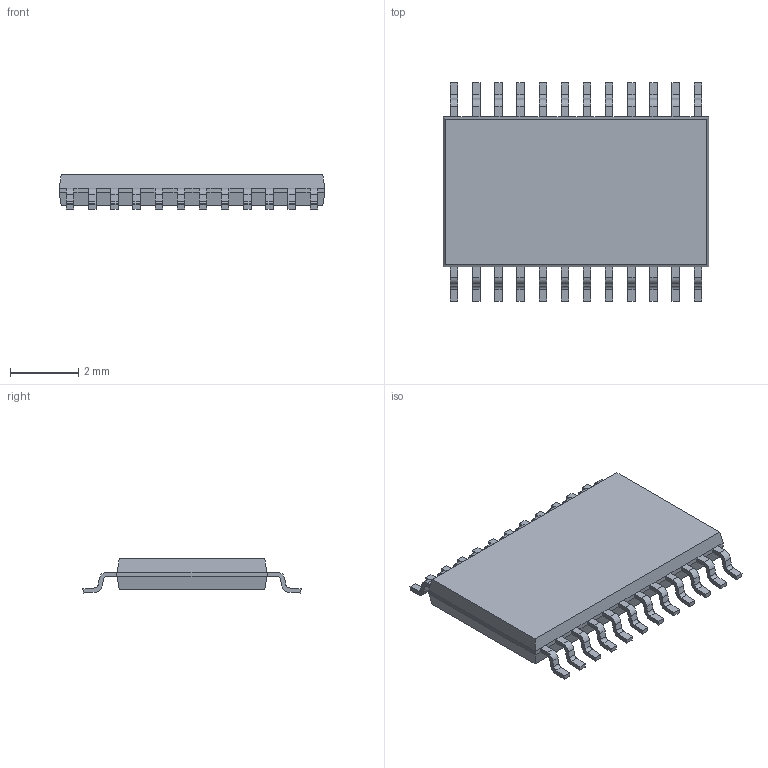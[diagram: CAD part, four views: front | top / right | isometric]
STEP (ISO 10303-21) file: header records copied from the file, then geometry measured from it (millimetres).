
FILE_DESCRIPTION (( 'STEP AP214' ), '1' );
FILE_NAME ('LE-24LD.STEP', '2017-01-25T21:49:27', ( '' ), ( '' ), 'SwSTEP 2.0', 'SolidWorks 2015', '' );
FILE_SCHEMA (( 'AUTOMOTIVE_DESIGN' ));
Length unit declared in the file: millimetre
Products named in the file (2): LE-24-mold; LE-24LD
Assembly tree (1 placements, depth 2):
  LE-24LD
    LE-24-mold
Bounding box: 7.8 x 6.4 x 1 mm (x, y, z)
Volume: 31.1 mm3; surface area: 108.9 mm2
Topology: 1 solids, 1 shells, 350 faces, 940 edges, 592 vertices
Faces by surface type: plane 254, cylinder 96
Entity records: 10830 total; most frequent: CARTESIAN_POINT 1886, ORIENTED_EDGE 1880, DIRECTION 1840, EDGE_CURVE 940, VECTOR 748, LINE 748, VERTEX_POINT 592, AXIS2_PLACEMENT_3D 546
